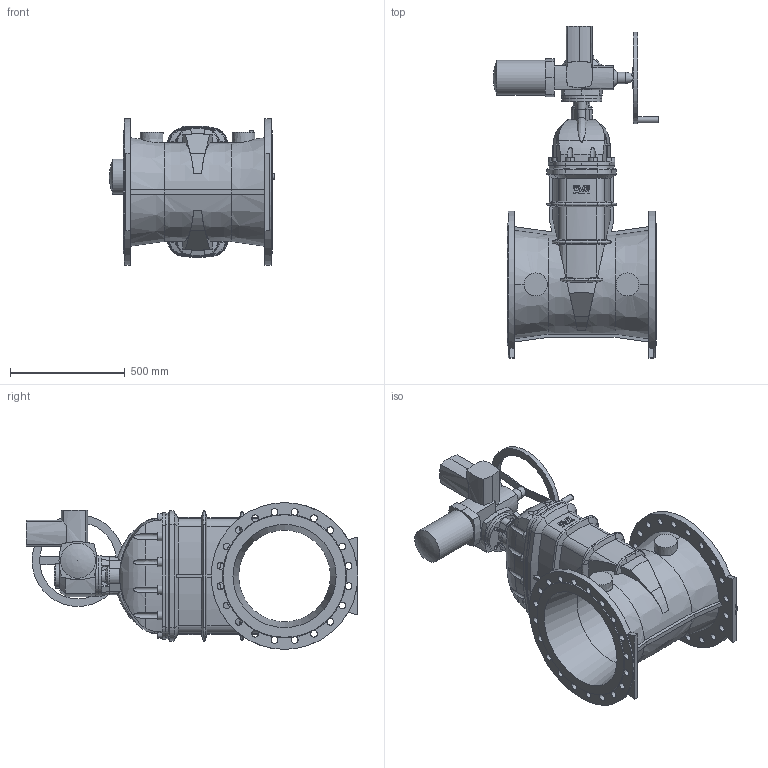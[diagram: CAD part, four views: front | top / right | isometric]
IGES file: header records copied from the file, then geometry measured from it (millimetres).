
Start section: SolidWorks IGES file using analytic representation for surfaces
Global section: file name: D:\Arthur\For Will\Finished\O_15_72_DN450 with AUMA\O_15_72_DN450_00_iges with AUMA.IGS; native system: SolidWorks 2012; preprocessor: SolidWorks 2012; author: aran; date: 150608.162941; units: millimetre
Bounding box: 721 x 1447 x 640 mm (x, y, z)
Surface area: 4164078.5 mm2 (no closed solid volume)
Topology: 0 solids, 0 shells, 573 faces, 3323 edges, 3246 vertices
Faces by surface type: revolution 350, bspline 223
